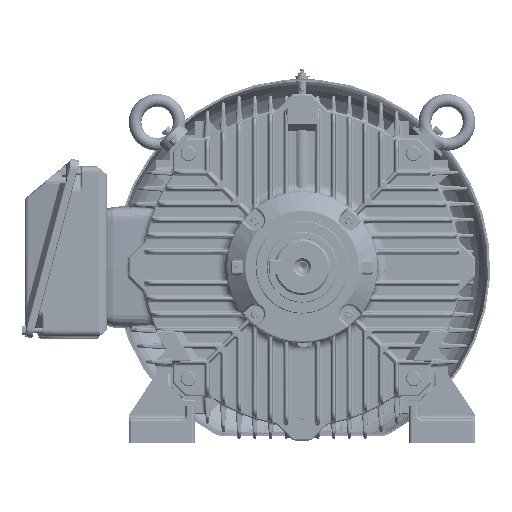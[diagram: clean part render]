
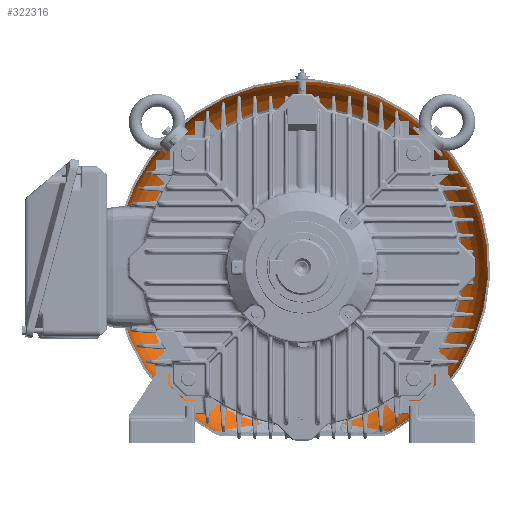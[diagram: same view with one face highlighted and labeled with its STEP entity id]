
A CAD part, front view. The second image highlights one B-rep face of the part: STEP entity #322316.
In plain terms, the highlighted toroidal (fillet/blend) face has major radius 217 mm and minor radius 78 mm.
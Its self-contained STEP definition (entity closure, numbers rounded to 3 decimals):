
#3790=TOROIDAL_SURFACE('',#340729,217.,78.);
#8273=B_SPLINE_CURVE_WITH_KNOTS('',3,(#524991,#524992,#524993,#524994,#524995,
#524996,#524997,#524998,#524999,#525000,#525001,#525002,#525003,#525004,
#525005,#525006,#525007,#525008,#525009,#525010,#525011,#525012,#525013,
#525014,#525015,#525016,#525017,#525018,#525019,#525020,#525021,#525022,
#525023,#525024,#525025,#525026,#525027),.UNSPECIFIED.,.F.,.F.,(4,1,1,1,
1,1,1,1,1,1,1,1,1,1,1,1,1,1,1,1,1,1,1,1,1,1,1,1,1,1,1,1,1,1,4),(0.,0.063,
0.094,0.125,0.156,0.188,0.219,0.234,0.25,0.266,0.281,0.313,
0.375,0.406,0.438,0.469,0.484,0.492,0.5,0.508,0.516,
0.531,0.563,0.594,0.625,0.688,0.719,0.734,0.75,0.766,0.781,
0.813,0.875,0.938,1.),.UNSPECIFIED.);
#8274=B_SPLINE_CURVE_WITH_KNOTS('',3,(#525031,#525032,#525033,#525034,#525035,
#525036,#525037,#525038,#525039,#525040,#525041,#525042,#525043,#525044,
#525045,#525046,#525047,#525048,#525049,#525050,#525051,#525052,#525053,
#525054,#525055,#525056,#525057,#525058,#525059,#525060,#525061,#525062,
#525063,#525064,#525065,#525066,#525067,#525068,#525069),.UNSPECIFIED.,
 .F.,.F.,(4,1,1,1,1,1,1,1,1,1,1,1,1,1,1,1,1,1,1,1,1,1,1,1,1,1,1,1,1,1,1,
1,1,1,1,1,4),(0.,0.063,0.125,0.188,0.219,0.234,0.25,0.266,0.281,
0.313,0.375,0.406,0.438,0.469,0.484,0.492,0.5,0.508,0.516,
0.531,0.563,0.594,0.625,0.656,0.688,0.719,0.734,0.742,
0.75,0.758,0.766,0.781,0.813,0.844,0.875,0.938,1.),
 .UNSPECIFIED.);
#98929=ORIENTED_EDGE('',*,*,#143557,.T.);
#98930=ORIENTED_EDGE('',*,*,#143558,.T.);
#98931=ORIENTED_EDGE('',*,*,#143559,.F.);
#98932=ORIENTED_EDGE('',*,*,#143560,.T.);
#143557=EDGE_CURVE('',#168328,#168329,#178932,.T.);
#143558=EDGE_CURVE('',#168329,#168330,#8273,.T.);
#143559=EDGE_CURVE('',#168331,#168330,#178933,.T.);
#143560=EDGE_CURVE('',#168331,#168328,#8274,.T.);
#168328=VERTEX_POINT('',#524989);
#168329=VERTEX_POINT('',#524990);
#168330=VERTEX_POINT('',#525028);
#168331=VERTEX_POINT('',#525030);
#178932=CIRCLE('',#340730,295.);
#178933=CIRCLE('',#340731,256.);
#193513=EDGE_LOOP('',(#98929,#98930,#98931,#98932));
#210000=FACE_BOUND('',#193513,.T.);
#322316=ADVANCED_FACE('',(#210000),#3790,.F.);
#340729=AXIS2_PLACEMENT_3D('',#524987,#390336,#390337);
#340730=AXIS2_PLACEMENT_3D('',#524988,#390338,#390339);
#340731=AXIS2_PLACEMENT_3D('',#525029,#390340,#390341);
#390336=DIRECTION('',(0.,-1.,0.));
#390337=DIRECTION('',(0.,0.,1.));
#390338=DIRECTION('',(0.,-1.,0.));
#390339=DIRECTION('',(0.,0.,1.));
#390340=DIRECTION('',(0.,-1.,0.));
#390341=DIRECTION('',(0.,0.,1.));
#524987=CARTESIAN_POINT('',(0.,739.653,0.));
#524988=CARTESIAN_POINT('',(0.,739.653,0.));
#524989=CARTESIAN_POINT('',(138.506,739.653,-260.463));
#524990=CARTESIAN_POINT('',(-138.403,739.653,-260.518));
#524991=CARTESIAN_POINT('',(-138.403,739.653,-260.518));
#524992=CARTESIAN_POINT('',(-138.403,741.986,-260.518));
#524993=CARTESIAN_POINT('',(-138.151,745.478,-260.473));
#524994=CARTESIAN_POINT('',(-137.322,750.069,-260.33));
#524995=CARTESIAN_POINT('',(-136.44,753.52,-260.178));
#524996=CARTESIAN_POINT('',(-135.365,756.783,-259.992));
#524997=CARTESIAN_POINT('',(-134.061,760.018,-259.766));
#524998=CARTESIAN_POINT('',(-132.791,762.658,-259.547));
#524999=CARTESIAN_POINT('',(-131.678,764.72,-259.356));
#525000=CARTESIAN_POINT('',(-130.764,766.291,-259.199));
#525001=CARTESIAN_POINT('',(-129.899,767.683,-259.051));
#525002=CARTESIAN_POINT('',(-128.657,769.566,-258.838));
#525003=CARTESIAN_POINT('',(-126.354,772.762,-258.442));
#525004=CARTESIAN_POINT('',(-123.393,776.254,-257.936));
#525005=CARTESIAN_POINT('',(-120.132,779.562,-257.384));
#525006=CARTESIAN_POINT('',(-117.538,781.955,-256.948));
#525007=CARTESIAN_POINT('',(-115.261,783.871,-256.568));
#525008=CARTESIAN_POINT('',(-113.601,785.177,-256.292));
#525009=CARTESIAN_POINT('',(-112.645,785.904,-256.134));
#525010=CARTESIAN_POINT('',(-111.892,786.464,-256.009));
#525011=CARTESIAN_POINT('',(-111.236,786.942,-255.9));
#525012=CARTESIAN_POINT('',(-110.319,787.598,-255.749));
#525013=CARTESIAN_POINT('',(-108.71,788.714,-255.483));
#525014=CARTESIAN_POINT('',(-106.348,790.257,-255.096));
#525015=CARTESIAN_POINT('',(-103.435,792.016,-254.623));
#525016=CARTESIAN_POINT('',(-99.441,794.246,-253.983));
#525017=CARTESIAN_POINT('',(-95.297,796.302,-253.332));
#525018=CARTESIAN_POINT('',(-91.537,797.961,-252.755));
#525019=CARTESIAN_POINT('',(-89.366,798.865,-252.426));
#525020=CARTESIAN_POINT('',(-87.687,799.536,-252.174));
#525021=CARTESIAN_POINT('',(-86.118,800.14,-251.941));
#525022=CARTESIAN_POINT('',(-83.973,800.935,-251.624));
#525023=CARTESIAN_POINT('',(-80.207,802.251,-251.075));
#525024=CARTESIAN_POINT('',(-74.733,803.95,-250.305));
#525025=CARTESIAN_POINT('',(-68.041,805.718,-249.415));
#525026=CARTESIAN_POINT('',(-63.496,806.733,-248.851));
#525027=CARTESIAN_POINT('',(-61.203,807.203,-248.576));
#525028=CARTESIAN_POINT('',(-61.203,807.203,-248.576));
#525029=CARTESIAN_POINT('',(0.,807.203,0.));
#525030=CARTESIAN_POINT('',(61.301,807.203,-248.552));
#525031=CARTESIAN_POINT('',(61.301,807.203,-248.552));
#525032=CARTESIAN_POINT('',(63.6,806.731,-248.826));
#525033=CARTESIAN_POINT('',(68.157,805.714,-249.391));
#525034=CARTESIAN_POINT('',(74.863,803.942,-250.279));
#525035=CARTESIAN_POINT('',(80.347,802.238,-251.049));
#525036=CARTESIAN_POINT('',(84.118,800.918,-251.597));
#525037=CARTESIAN_POINT('',(86.266,800.121,-251.914));
#525038=CARTESIAN_POINT('',(87.836,799.517,-252.147));
#525039=CARTESIAN_POINT('',(89.521,798.842,-252.4));
#525040=CARTESIAN_POINT('',(91.698,797.934,-252.729));
#525041=CARTESIAN_POINT('',(95.469,796.268,-253.306));
#525042=CARTESIAN_POINT('',(99.624,794.202,-253.957));
#525043=CARTESIAN_POINT('',(103.627,791.962,-254.598));
#525044=CARTESIAN_POINT('',(106.546,790.195,-255.071));
#525045=CARTESIAN_POINT('',(108.912,788.645,-255.458));
#525046=CARTESIAN_POINT('',(110.524,787.524,-255.723));
#525047=CARTESIAN_POINT('',(111.443,786.865,-255.874));
#525048=CARTESIAN_POINT('',(112.101,786.384,-255.983));
#525049=CARTESIAN_POINT('',(112.852,785.824,-256.107));
#525050=CARTESIAN_POINT('',(113.806,785.095,-256.265));
#525051=CARTESIAN_POINT('',(115.464,783.788,-256.539));
#525052=CARTESIAN_POINT('',(117.736,781.871,-256.917));
#525053=CARTESIAN_POINT('',(120.323,779.478,-257.351));
#525054=CARTESIAN_POINT('',(122.761,776.997,-257.762));
#525055=CARTESIAN_POINT('',(125.047,774.428,-258.15));
#525056=CARTESIAN_POINT('',(127.175,771.773,-258.514));
#525057=CARTESIAN_POINT('',(128.815,769.487,-258.795));
#525058=CARTESIAN_POINT('',(129.887,767.857,-258.98));
#525059=CARTESIAN_POINT('',(130.484,766.905,-259.082));
#525060=CARTESIAN_POINT('',(130.905,766.215,-259.155));
#525061=CARTESIAN_POINT('',(131.379,765.409,-259.236));
#525062=CARTESIAN_POINT('',(131.969,764.369,-259.337));
#525063=CARTESIAN_POINT('',(132.965,762.518,-259.508));
#525064=CARTESIAN_POINT('',(134.241,759.845,-259.726));
#525065=CARTESIAN_POINT('',(135.547,756.58,-259.949));
#525066=CARTESIAN_POINT('',(136.979,752.164,-260.195));
#525067=CARTESIAN_POINT('',(138.182,746.537,-260.405));
#525068=CARTESIAN_POINT('',(138.506,741.955,-260.463));
#525069=CARTESIAN_POINT('',(138.506,739.653,-260.463));
